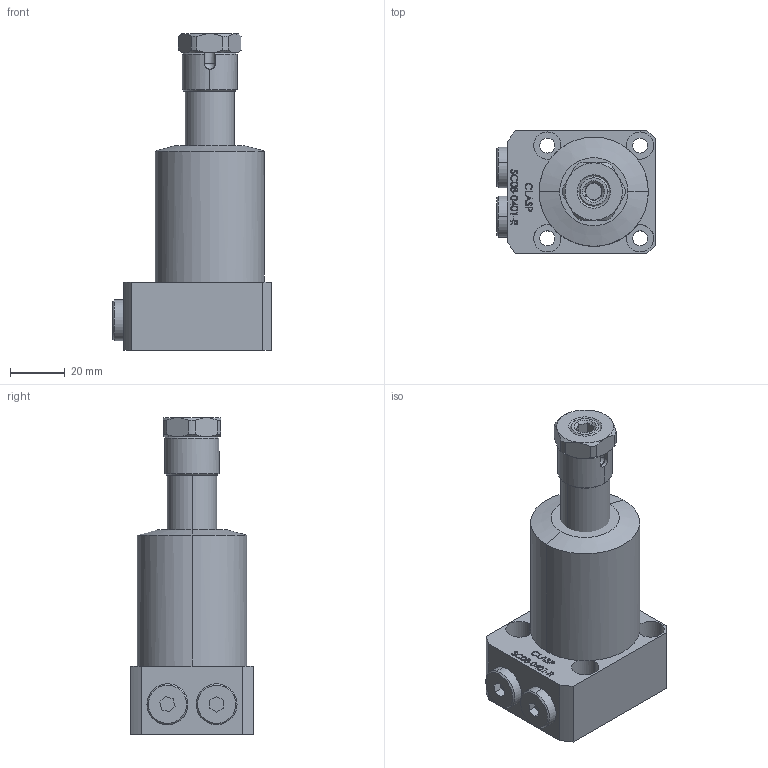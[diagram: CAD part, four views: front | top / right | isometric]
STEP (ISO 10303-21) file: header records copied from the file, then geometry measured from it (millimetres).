
FILE_DESCRIPTION (( 'STEP AP203' ), '1' );
FILE_NAME ('SC08-0401-R.STEP', '2022-07-08T17:16:26', ( '' ), ( '' ), 'SwSTEP 2.0', 'SolidWorks 2017', '' );
FILE_SCHEMA (( 'CONFIG_CONTROL_DESIGN' ));
Length unit declared in the file: millimetre
Products named in the file (6): SC-08-0401-R-05 plug; SC-08-0401-R-04 sleeve; SC-08-0401-R-03-nut; SC08-0401-R; SC-08-0401-R BODY; SC-08-0401-R-Piston
Assembly tree (6 placements, depth 2):
  SC08-0401-R
    SC-08-0401-R BODY
    SC-08-0401-R-Piston
    SC-08-0401-R-05 plug  x2
    SC-08-0401-R-04 sleeve
    SC-08-0401-R-03-nut
Bounding box: 58 x 45 x 116 mm (x, y, z)
Volume: 137639.8 mm3; surface area: 28206.3 mm2
Topology: 6 solids, 6 shells, 377 faces, 930 edges, 603 vertices
Faces by surface type: plane 169, bspline 103, cylinder 62, cone 41, sphere 2
Entity records: 17645 total; most frequent: CARTESIAN_POINT 9009, ORIENTED_EDGE 1792, DIRECTION 1359, EDGE_CURVE 896, VERTEX_POINT 582, LINE 463, VECTOR 463, AXIS2_PLACEMENT_3D 448
